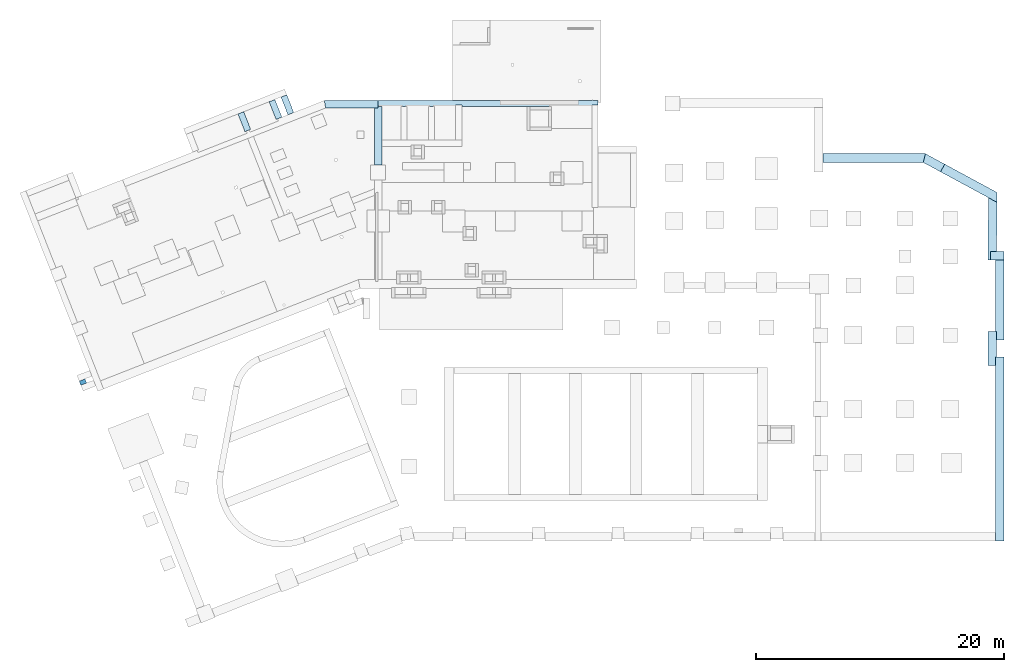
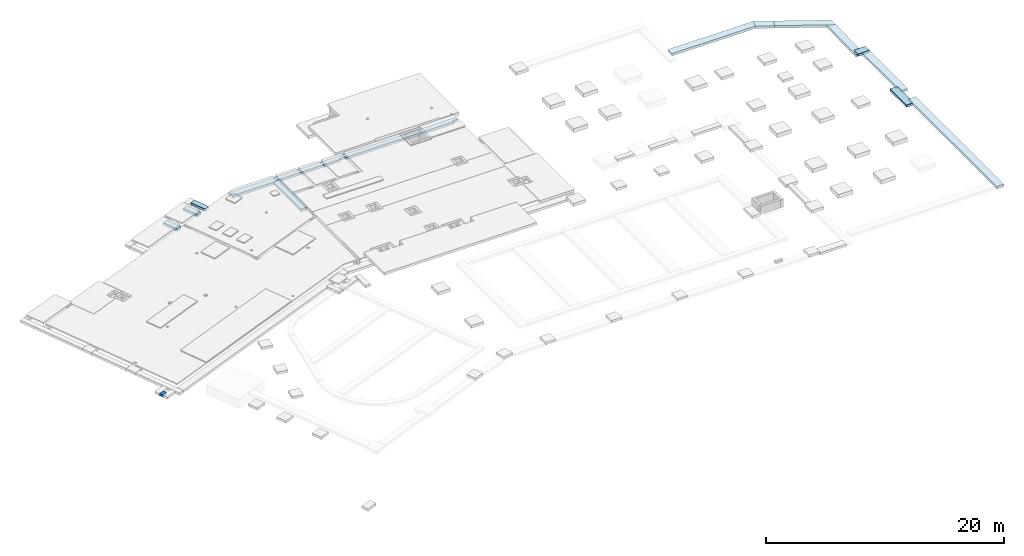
# One storey, part 8 of 9: 15 footings.
"""IFC2X3 building model written with IfcOpenShell, lengths in metres."""

from ifc_helpers import new_model, entity, si_unit, converted_unit, direction, frame, origin, place, context, subcontext, project, spatial, faceted_brep, material, element, save


model = new_model("IFC2X3")

# Units and contexts
model_context = context("Model", 3, precision=1e-05, world=origin(), true_north=direction((-0.407059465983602, -0.913401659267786)))
body_context = subcontext(model_context, "Body", "Model", "MODEL_VIEW")
ifc_project = project(units=[si_unit("LENGTHUNIT", "METRE"), si_unit("AREAUNIT", "SQUARE_METRE"), si_unit("VOLUMEUNIT", "CUBIC_METRE"), si_unit("MASSUNIT", "GRAM", prefix="KILO"), converted_unit("PLANEANGLEUNIT", "DEGREE", entity("IfcPlaneAngleMeasure", 0.0174532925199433), si_unit("PLANEANGLEUNIT", "RADIAN"), dimensions=[0, 0, 0, 0, 0, 0, 0])], contexts=[model_context])

# Site, buildings, storey
site_placement = place(None, origin())
site = spatial("IfcSite", under=ifc_project, at=site_placement, Name="Site", CompositionType="ELEMENT")
building_1_placement = place(site_placement, origin())
building_1 = spatial("IfcBuilding", under=site, at=building_1_placement, Name="Site", CompositionType="COMPLEX")
building_2_placement = place(building_1_placement, origin())
building_2 = spatial("IfcBuilding", under=building_1, at=building_2_placement, Name="Bâtiments", CompositionType="ELEMENT")
storey_placement = place(building_2_placement, frame((0.0, 0.0, -7.1)))
storey = spatial("IfcBuildingStorey", under=building_2, at=storey_placement, Name="FONDATIONS", CompositionType="ELEMENT", Elevation=-7.1)

# Footings
ifc_material_1 = material(Name="Béton")
footing_1_placement = place(storey_placement, frame((77.012733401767, -11.8116530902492, 4.75)))
element("IfcFooting", 1, at=footing_1_placement, inside=storey, material=ifc_material_1, Name="SF006", PredefinedType="STRIP_FOOTING", context=body_context, shape_type="Brep", body=[
    faceted_brep([(0.600373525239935, 0.687600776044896, 0.0), (0.700000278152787, 0.697600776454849, 0.0), (0.700001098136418, 2.75410007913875, 0.0), (1.09813646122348e-06, 2.75410035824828, 0.0), (0.0, 4.76963596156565e-07, 0.0), (0.600373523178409, 0.0, 0.0), (0.700000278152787, 0.697600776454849, 0.25), (0.600373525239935, 0.687600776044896, 0.25), (0.600373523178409, 0.0, 0.25), (0.0, 4.76963596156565e-07, 0.25), (1.09813646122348e-06, 2.75410035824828, 0.25), (0.700001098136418, 2.75410007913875, 0.25)], [[[0, 1, 2, 3, 4, 5]], [[6, 7, 8, 9, 10, 11]], [[1, 0, 7, 6]], [[2, 1, 6, 11]], [[3, 2, 11, 10]], [[4, 3, 10, 9]], [[5, 4, 9, 8]], [[0, 5, 8, 7]]], orient=[[False], [False], [False], [False], [False], [False], [False], [False]]),
])
ifc_material_2 = material(Name="Béton")
footing_2_placement = place(storey_placement, frame((77.6131068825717, -25.9449283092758, 4.75)))
element("IfcFooting", 2, at=footing_2_placement, inside=storey, material=ifc_material_2, Name="SF006", PredefinedType="STRIP_FOOTING", context=body_context, shape_type="Brep", body=[
    faceted_brep([(0.0, 0.0, 0.0), (0.7, 6.83721737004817e-11, 0.0), (0.700000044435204, 14.8308759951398, 0.0), (0.0996267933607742, 14.8308759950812, 0.0), (4.44352044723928e-08, 14.8208759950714, 0.0), (0.7, 6.83721737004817e-11, 0.25), (0.0, 0.0, 0.25), (4.44352044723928e-08, 14.8208759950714, 0.25), (0.0996267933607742, 14.8308759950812, 0.25), (0.700000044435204, 14.8308759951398, 0.25)], [[[0, 1, 2, 3, 4]], [[5, 6, 7, 8, 9]], [[1, 0, 6, 5]], [[2, 1, 5, 9]], [[3, 2, 9, 8]], [[4, 3, 8, 7]], [[0, 4, 7, 6]]], orient=[[False], [False], [False], [False], [False], [False], [False]]),
])
ifc_material_3 = material(Name="Béton")
footing_3_placement = place(storey_placement, frame((20.0439730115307, 8.41224198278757, 1.55)))
element("IfcFooting", 3, at=footing_3_placement, inside=storey, material=ifc_material_3, Name="SF001", PredefinedType="STRIP_FOOTING", context=body_context, shape_type="Brep", body=[
    faceted_brep([(0.465462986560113, 1.60514363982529, 0.0), (0.0, 1.42253967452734, 0.0), (0.558070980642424, 1.81898940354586e-15, 0.0), (1.02352644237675, 0.182623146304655, 0.0), (0.0, 1.42253967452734, 0.25), (0.465462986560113, 1.60514363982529, 0.25), (1.02352644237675, 0.182623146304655, 0.25), (0.558070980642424, 1.81898940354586e-15, 0.25)], [[[0, 1, 2, 3]], [[4, 5, 6, 7]], [[1, 0, 5, 4]], [[2, 1, 4, 7]], [[3, 2, 7, 6]], [[0, 3, 6, 5]]], orient=[[False], [False], [False], [False], [False], [False]]),
])
ifc_material_4 = material(Name="Béton")
footing_4_placement = place(storey_placement, frame((16.5752402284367, 7.05129403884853, 1.55)))
element("IfcFooting", 4, at=footing_4_placement, inside=storey, material=ifc_material_4, Name="SF001", PredefinedType="STRIP_FOOTING", context=body_context, shape_type="Brep", body=[
    faceted_brep([(0.465462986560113, 1.6052865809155, 0.0), (0.0, 1.42268261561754, 0.0), (0.558127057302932, 0.0, 0.0), (1.02358251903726, 0.182623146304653, 0.0), (0.0, 1.42268261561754, 0.25), (0.465462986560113, 1.6052865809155, 0.25), (1.02358251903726, 0.182623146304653, 0.25), (0.558127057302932, 0.0, 0.25)], [[[0, 1, 2, 3]], [[4, 5, 6, 7]], [[1, 0, 5, 4]], [[2, 1, 4, 7]], [[3, 2, 7, 6]], [[0, 3, 6, 5]]], orient=[[False], [False], [False], [False], [False], [False]]),
])
ifc_material_5 = material(Name="Béton")
footing_5_placement = place(storey_placement, frame((19.085119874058, 8.03603854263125, 1.55)))
element("IfcFooting", 5, at=footing_5_placement, inside=storey, material=ifc_material_5, Name="SF001", PredefinedType="STRIP_FOOTING", context=body_context, shape_type="Brep", body=[
    faceted_brep([(0.465462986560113, 1.60518315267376, 0.0), (-3.63797880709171e-15, 1.4225791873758, 0.0), (0.558086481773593, 0.0, 0.0), (1.02354194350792, 0.182623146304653, 0.0), (-3.63797880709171e-15, 1.4225791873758, 0.25), (0.465462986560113, 1.60518315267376, 0.25), (1.02354194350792, 0.182623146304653, 0.25), (0.558086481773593, 0.0, 0.25)], [[[0, 1, 2, 3]], [[4, 5, 6, 7]], [[1, 0, 5, 4]], [[2, 1, 4, 7]], [[3, 2, 7, 6]], [[0, 3, 6, 5]]], orient=[[False], [False], [False], [False], [False], [False]]),
])
ifc_material_6 = material(Name="Béton")
footing_6_placement = place(storey_placement, frame((27.5726463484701, 4.35151757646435, 1.55)))
element("IfcFooting", 6, at=footing_6_placement, inside=storey, material=ifc_material_6, Name="SF002", PredefinedType="STRIP_FOOTING", context=body_context, shape_type="Brep", body=[
    faceted_brep([(0.0, 0.0, 0.0), (0.6, 0.0, 0.0), (0.6, 4.7088697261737, 0.0), (0.290001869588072, 4.7088697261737, 0.0), (0.290001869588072, 4.60886972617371, 0.0), (0.0, 4.60886972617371, 0.0), (0.6, 0.0, 0.25), (0.0, 0.0, 0.25), (0.0, 4.60886972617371, 0.25), (0.290001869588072, 4.60886972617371, 0.25), (0.290001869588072, 4.7088697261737, 0.25), (0.6, 4.7088697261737, 0.25)], [[[0, 1, 2, 3, 4, 5]], [[6, 7, 8, 9, 10, 11]], [[1, 0, 7, 6]], [[2, 1, 6, 11]], [[3, 2, 11, 10]], [[4, 3, 10, 9]], [[5, 4, 9, 8]], [[0, 5, 8, 7]]], orient=[[False], [False], [False], [False], [False], [False], [False], [False]]),
])
ifc_material_7 = material(Name="Béton")
footing_7_placement = place(storey_placement, frame((23.5283461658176, 8.96038730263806, 1.55)))
element("IfcFooting", 7, at=footing_7_placement, inside=storey, material=ifc_material_7, Name="SF002", PredefinedType="STRIP_FOOTING", context=body_context, shape_type="Brep", body=[
    faceted_brep([(4.33430205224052, 0.0, 0.0), (4.33430205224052, 0.599999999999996, 0.0), (0.0, 0.599999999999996, 0.0), (0.113494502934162, 0.0, 0.0), (4.33430205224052, 0.599999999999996, 0.25), (4.33430205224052, 0.0, 0.25), (0.113494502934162, 0.0, 0.25), (0.0, 0.599999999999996, 0.25)], [[[0, 1, 2, 3]], [[4, 5, 6, 7]], [[1, 0, 5, 4]], [[2, 1, 4, 7]], [[3, 2, 7, 6]], [[0, 3, 6, 5]]], orient=[[False], [False], [False], [False], [False], [False]]),
])
ifc_material_8 = material(Name="Béton")
footing_8_placement = place(storey_placement, frame((3.78144114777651, -13.3859579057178, 1.55)))
element("IfcFooting", 8, at=footing_8_placement, inside=storey, material=ifc_material_8, Name="SF001", PredefinedType="STRIP_FOOTING", context=body_context, shape_type="Brep", body=[
    faceted_brep([(0.465464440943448, 0.508426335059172, 0.0), (0.0, 0.32582607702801, 0.0), (0.127823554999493, 1.81898940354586e-15, 0.0), (0.59328799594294, 0.182600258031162, 0.0), (0.0, 0.32582607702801, 0.25), (0.465464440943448, 0.508426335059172, 0.25), (0.59328799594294, 0.182600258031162, 0.25), (0.127823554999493, 1.81898940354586e-15, 0.25)], [[[0, 1, 2, 3]], [[4, 5, 6, 7]], [[1, 0, 5, 4]], [[2, 1, 4, 7]], [[3, 2, 7, 6]], [[0, 3, 6, 5]]], orient=[[False], [False], [False], [False], [False], [False]]),
])
ifc_material_9 = material(Name="Béton")
footing_9_placement = place(storey_placement, frame((77.6131108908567, -9.75990427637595, 4.75)))
element("IfcFooting", 9, at=footing_9_placement, inside=storey, material=ifc_material_9, Name="SF006", PredefinedType="STRIP_FOOTING", context=body_context, shape_type="Brep", body=[
    faceted_brep([(0.0996233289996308, 0.0, 0.0), (0.699999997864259, 0.0, 0.0), (0.700000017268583, 6.46216226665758, 0.0), (1.72687723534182e-08, 6.46216226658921, 0.0), (0.0, 0.702351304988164, 0.0), (0.09962360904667, 0.702351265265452, 0.0), (0.699999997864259, 0.0, 0.25), (0.0996233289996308, 0.0, 0.25), (0.09962360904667, 0.702351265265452, 0.25), (0.0, 0.702351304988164, 0.25), (1.72687723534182e-08, 6.46216226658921, 0.25), (0.700000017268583, 6.46216226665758, 0.25)], [[[0, 1, 2, 3, 4, 5]], [[6, 7, 8, 9, 10, 11]], [[1, 0, 7, 6]], [[2, 1, 6, 11]], [[3, 2, 11, 10]], [[4, 3, 10, 9]], [[5, 4, 9, 8]], [[0, 5, 8, 7]]], orient=[[False], [False], [False], [False], [False], [False], [False], [False]]),
])
ifc_material_10 = material(Name="Béton")
footing_10_placement = place(storey_placement, frame((77.2132550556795, -3.2977420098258, 4.75)))
element("IfcFooting", 10, at=footing_10_placement, inside=storey, material=ifc_material_10, Name="SF006", PredefinedType="STRIP_FOOTING", context=body_context, shape_type="Brep", body=[
    faceted_brep([(1.09985585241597, 1.07428149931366e-10, 0.0), (1.09985585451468, 0.700000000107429, 0.0), (0.500000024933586, 0.700000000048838, 0.0), (0.0, 0.690000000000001, 0.0), (0.0, 0.0, 0.0), (1.09985585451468, 0.700000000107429, 0.25), (1.09985585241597, 1.07428149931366e-10, 0.25), (0.0, 0.0, 0.25), (0.0, 0.690000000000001, 0.25), (0.500000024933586, 0.700000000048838, 0.25)], [[[0, 1, 2, 3, 4]], [[5, 6, 7, 8, 9]], [[1, 0, 6, 5]], [[2, 1, 5, 9]], [[3, 2, 9, 8]], [[4, 3, 8, 7]], [[0, 4, 7, 6]]], orient=[[False], [False], [False], [False], [False], [False], [False]]),
])
ifc_material_11 = material(Name="Béton")
footing_11_placement = place(storey_placement, frame((73.2006233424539, 1.34990496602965, 4.75)))
element("IfcFooting", 11, at=footing_11_placement, inside=storey, material=ifc_material_11, Name="SF006", PredefinedType="STRIP_FOOTING", context=body_context, shape_type="Brep", body=[
    faceted_brep([(4.56018662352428, 0.0, 0.0), (4.56018662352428, 0.795735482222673, 0.0), (0.332884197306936, 3.08096140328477, 0.0), (0.0, 2.46517888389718, 0.0), (4.56018662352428, 0.795735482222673, 0.25), (4.56018662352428, 0.0, 0.25), (0.0, 2.46517888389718, 0.25), (0.332884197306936, 3.08096140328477, 0.25)], [[[0, 1, 2, 3]], [[4, 5, 6, 7]], [[1, 0, 5, 4]], [[2, 1, 4, 7]], [[3, 2, 7, 6]], [[0, 3, 6, 5]]], orient=[[False], [False], [False], [False], [False], [False]]),
])
ifc_material_12 = material(Name="Béton")
footing_12_placement = place(storey_placement, frame((71.8015393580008, 3.81508384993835, 4.75)))
element("IfcFooting", 12, at=footing_12_placement, inside=storey, material=ifc_material_12, Name="SF006", PredefinedType="STRIP_FOOTING", context=body_context, shape_type="Brep", body=[
    faceted_brep([(1.39908398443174, 0.0, 0.0), (1.73196818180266, 0.615782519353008, 0.0), (0.177095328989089, 1.45632700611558, 0.0), (-1.45519152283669e-14, 0.756327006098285, 0.0), (1.73196818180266, 0.615782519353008, 0.25), (1.39908398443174, 0.0, 0.25), (-1.45519152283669e-14, 0.756327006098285, 0.25), (0.177095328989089, 1.45632700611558, 0.25)], [[[0, 1, 2, 3]], [[4, 5, 6, 7]], [[1, 0, 5, 4]], [[2, 1, 4, 7]], [[3, 2, 7, 6]], [[0, 3, 6, 5]]], orient=[[False], [False], [False], [False], [False], [False]]),
])
ifc_material_13 = material(Name="Béton")
footing_13_placement = place(storey_placement, frame((63.7133902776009, 4.57141085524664, 4.75)))
element("IfcFooting", 13, at=footing_13_placement, inside=storey, material=ifc_material_13, Name="SF006", PredefinedType="STRIP_FOOTING", context=body_context, shape_type="Brep", body=[
    faceted_brep([(8.08814908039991, 7.89993464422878e-10, 0.0), (8.26524440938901, 0.70000000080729, 0.0), (2.09871359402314e-09, 0.700000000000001, 0.0), (7.27595761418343e-15, 0.0, 0.0), (8.26524440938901, 0.70000000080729, 0.25), (8.08814908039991, 7.89993464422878e-10, 0.25), (7.27595761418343e-15, 0.0, 0.25), (2.09871359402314e-09, 0.700000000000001, 0.25)], [[[0, 1, 2, 3]], [[4, 5, 6, 7]], [[1, 0, 5, 4]], [[2, 1, 4, 7]], [[3, 2, 7, 6]], [[0, 3, 6, 5]]], orient=[[False], [False], [False], [False], [False], [False]]),
])
ifc_material_14 = material(Name="Béton")
footing_14_placement = place(storey_placement, frame((77.0132550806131, -3.29774200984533, 4.75)))
element("IfcFooting", 14, at=footing_14_placement, inside=storey, material=ifc_material_14, Name="SF006", PredefinedType="STRIP_FOOTING", context=body_context, shape_type="Brep", body=[
    faceted_brep([(0.199999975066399, 0.690000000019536, 0.0), (0.699999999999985, 0.700000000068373, 0.0), (0.747554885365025, 4.64764697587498, 0.0), (0.0475548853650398, 5.02605807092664, 0.0), (0.0, 0.0, 0.0), (0.199999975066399, 1.95350366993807e-11, 0.0), (0.699999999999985, 0.700000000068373, 0.25), (0.199999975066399, 0.690000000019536, 0.25), (0.199999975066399, 1.95350366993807e-11, 0.25), (0.0, 0.0, 0.25), (0.0475548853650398, 5.02605807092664, 0.25), (0.747554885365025, 4.64764697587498, 0.25)], [[[0, 1, 2, 3, 4, 5]], [[6, 7, 8, 9, 10, 11]], [[1, 0, 7, 6]], [[2, 1, 6, 11]], [[3, 2, 11, 10]], [[4, 3, 10, 9]], [[5, 4, 9, 8]], [[0, 5, 8, 7]]], orient=[[False], [False], [False], [False], [False], [False], [False], [False]]),
])
ifc_material_15 = material(Name="Béton")
footing_15_placement = place(storey_placement, frame((27.8626482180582, 9.06038730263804, 1.55)))
element("IfcFooting", 15, at=footing_15_placement, inside=storey, material=ifc_material_15, Name="SF001", PredefinedType="STRIP_FOOTING", context=body_context, shape_type="Brep", body=[
    faceted_brep([(17.7299836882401, 0.150000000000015, 0.0), (17.7299836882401, 0.500000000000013, 0.0), (-3.63797880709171e-15, 0.500000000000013, 0.0), (-3.63797880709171e-15, 1.09139364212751e-14, 0.0), (6.25544251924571, 5.45696821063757e-15, 0.0), (6.25544251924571, 0.150000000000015, 0.0), (6.75544251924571, 0.150000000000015, 0.0), (6.75544251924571, 5.45696821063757e-15, 0.0), (17.2299836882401, 0.0, 0.0), (17.2299836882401, 0.150000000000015, 0.0), (17.7299836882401, 0.500000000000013, 0.25), (17.7299836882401, 0.150000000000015, 0.25), (17.2299836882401, 0.150000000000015, 0.25), (17.2299836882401, 0.0, 0.25), (6.75544251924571, 5.45696821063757e-15, 0.25), (6.75544251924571, 0.150000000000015, 0.25), (6.25544251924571, 0.150000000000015, 0.25), (6.25544251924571, 5.45696821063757e-15, 0.25), (-3.63797880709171e-15, 1.09139364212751e-14, 0.25), (-3.63797880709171e-15, 0.500000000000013, 0.25)], [[[0, 1, 2, 3, 4, 5, 6, 7, 8, 9]], [[10, 11, 12, 13, 14, 15, 16, 17, 18, 19]], [[1, 0, 11, 10]], [[2, 1, 10, 19]], [[3, 2, 19, 18]], [[4, 3, 18, 17]], [[5, 4, 17, 16]], [[6, 5, 16, 15]], [[7, 6, 15, 14]], [[8, 7, 14, 13]], [[9, 8, 13, 12]], [[0, 9, 12, 11]]], orient=[[False], [False], [False], [False], [False], [False], [False], [False], [False], [False], [False], [False]]),
])

save(model, "model.ifc")
